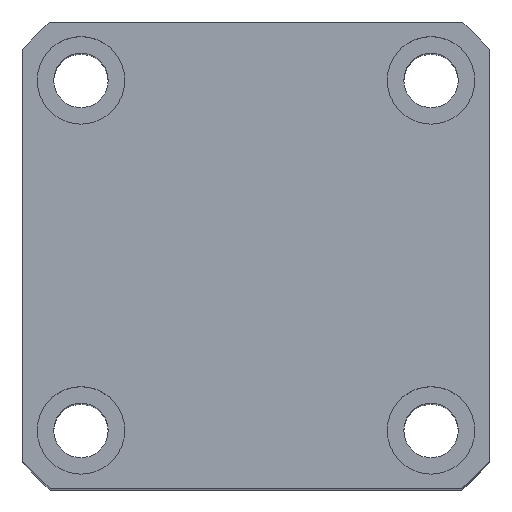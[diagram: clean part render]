
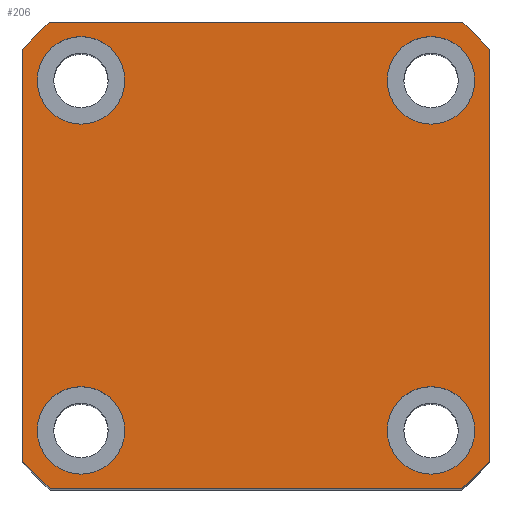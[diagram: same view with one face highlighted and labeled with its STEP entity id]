
A CAD part, top view. The second image highlights one B-rep face of the part: STEP entity #206.
In plain terms, the highlighted planar face has unit normal (0, 0, 1) as drawn and (1, 0, 0) by its records, which use the part's own axes.
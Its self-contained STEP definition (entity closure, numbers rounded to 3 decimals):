
#65 = EDGE_CURVE ( 'NONE', #3837, #6721, #4295, .T. ) ;
#89 = ORIENTED_EDGE ( 'NONE', *, *, #7794, .T. ) ;
#206 = ADVANCED_FACE ( 'NONE', ( #781, #7161, #7344, #5537, #3923 ), #4937, .T. ) ;
#223 = VERTEX_POINT ( 'NONE', #752 ) ;
#228 = VERTEX_POINT ( 'NONE', #6549 ) ;
#315 = DIRECTION ( 'NONE',  ( 1., 0., 0. ) ) ;
#440 = AXIS2_PLACEMENT_3D ( 'NONE', #5600, #1898, #6210 ) ;
#446 = EDGE_CURVE ( 'NONE', #3379, #5198, #3336, .T. ) ;
#577 = CARTESIAN_POINT ( 'NONE',  ( 75., -21.166, 24. ) ) ;
#619 = CARTESIAN_POINT ( 'NONE',  ( 75., 18., -22.5 ) ) ;
#655 = CARTESIAN_POINT ( 'NONE',  ( 75., -18., -22.5 ) ) ;
#752 = CARTESIAN_POINT ( 'NONE',  ( 75., 18., 13.5 ) ) ;
#763 = ORIENTED_EDGE ( 'NONE', *, *, #5205, .F. ) ;
#781 = FACE_BOUND ( 'NONE', #2749, .T. ) ;
#782 = LINE ( 'NONE', #6121, #3924 ) ;
#976 = EDGE_CURVE ( 'NONE', #223, #6044, #5725, .T. ) ;
#1087 = DIRECTION ( 'NONE',  ( 1., 0., 0. ) ) ;
#1119 = DIRECTION ( 'NONE',  ( 1., 0., 0. ) ) ;
#1121 = AXIS2_PLACEMENT_3D ( 'NONE', #4850, #1119, #5466 ) ;
#1130 = DIRECTION ( 'NONE',  ( 1., 0., 0. ) ) ;
#1134 = ORIENTED_EDGE ( 'NONE', *, *, #446, .F. ) ;
#1162 = VECTOR ( 'NONE', #1534, 1000. ) ;
#1181 = VERTEX_POINT ( 'NONE', #1434 ) ;
#1232 = DIRECTION ( 'NONE',  ( 0., 0., -1. ) ) ;
#1234 = DIRECTION ( 'NONE',  ( 0., 0., -1. ) ) ;
#1334 = CARTESIAN_POINT ( 'NONE',  ( 75., -24., 24. ) ) ;
#1355 = ORIENTED_EDGE ( 'NONE', *, *, #1619, .T. ) ;
#1434 = CARTESIAN_POINT ( 'NONE',  ( 75., -21.166, -24. ) ) ;
#1534 = DIRECTION ( 'NONE',  ( 0., 0., -1. ) ) ;
#1572 = AXIS2_PLACEMENT_3D ( 'NONE', #3184, #5476, #2469 ) ;
#1584 = EDGE_LOOP ( 'NONE', ( #2938, #1809 ) ) ;
#1619 = EDGE_CURVE ( 'NONE', #2673, #6232, #6697, .T. ) ;
#1642 = CIRCLE ( 'NONE', #4729, 4.5 ) ;
#1729 = VECTOR ( 'NONE', #6292, 1000. ) ;
#1752 = AXIS2_PLACEMENT_3D ( 'NONE', #6094, #2410, #6713 ) ;
#1809 = ORIENTED_EDGE ( 'NONE', *, *, #1867, .F. ) ;
#1866 = CIRCLE ( 'NONE', #5488, 32. ) ;
#1867 = EDGE_CURVE ( 'NONE', #6044, #223, #4494, .T. ) ;
#1872 = CARTESIAN_POINT ( 'NONE',  ( 75., 18., 22.5 ) ) ;
#1898 = DIRECTION ( 'NONE',  ( 1., 0., 0. ) ) ;
#1942 = CARTESIAN_POINT ( 'NONE',  ( 75., -24., 21.166 ) ) ;
#1969 = DIRECTION ( 'NONE',  ( 1., 0., 0. ) ) ;
#2018 = LINE ( 'NONE', #7152, #5113 ) ;
#2020 = ORIENTED_EDGE ( 'NONE', *, *, #2753, .F. ) ;
#2030 = DIRECTION ( 'NONE',  ( 0., 0., -1. ) ) ;
#2070 = EDGE_LOOP ( 'NONE', ( #2322, #1134 ) ) ;
#2132 = EDGE_CURVE ( 'NONE', #6442, #2303, #3539, .T. ) ;
#2183 = DIRECTION ( 'NONE',  ( 1., 0., 0. ) ) ;
#2303 = VERTEX_POINT ( 'NONE', #3850 ) ;
#2322 = ORIENTED_EDGE ( 'NONE', *, *, #4130, .F. ) ;
#2410 = DIRECTION ( 'NONE',  ( 1., 0., 0. ) ) ;
#2469 = DIRECTION ( 'NONE',  ( 0., 0., -1. ) ) ;
#2475 = AXIS2_PLACEMENT_3D ( 'NONE', #4862, #1130, #5478 ) ;
#2564 = CARTESIAN_POINT ( 'NONE',  ( 75., 24., 24. ) ) ;
#2608 = ORIENTED_EDGE ( 'NONE', *, *, #65, .T. ) ;
#2634 = CIRCLE ( 'NONE', #1752, 32. ) ;
#2673 = VERTEX_POINT ( 'NONE', #3478 ) ;
#2749 = EDGE_LOOP ( 'NONE', ( #763, #6296 ) ) ;
#2753 = EDGE_CURVE ( 'NONE', #7275, #4209, #7914, .T. ) ;
#2780 = AXIS2_PLACEMENT_3D ( 'NONE', #3262, #3891, #2030 ) ;
#2784 = CARTESIAN_POINT ( 'NONE',  ( 75., 21.166, -24. ) ) ;
#2789 = CARTESIAN_POINT ( 'NONE',  ( 75., -18., 18. ) ) ;
#2827 = CARTESIAN_POINT ( 'NONE',  ( 75., 18., 18. ) ) ;
#2851 = EDGE_CURVE ( 'NONE', #7170, #3837, #2634, .T. ) ;
#2882 = EDGE_CURVE ( 'NONE', #2303, #2673, #782, .T. ) ;
#2888 = ORIENTED_EDGE ( 'NONE', *, *, #2882, .T. ) ;
#2938 = ORIENTED_EDGE ( 'NONE', *, *, #976, .F. ) ;
#3071 = EDGE_CURVE ( 'NONE', #6721, #1181, #1866, .T. ) ;
#3184 = CARTESIAN_POINT ( 'NONE',  ( 75., 0., 0. ) ) ;
#3262 = CARTESIAN_POINT ( 'NONE',  ( 75., 0., 0. ) ) ;
#3336 = CIRCLE ( 'NONE', #4902, 4.5 ) ;
#3379 = VERTEX_POINT ( 'NONE', #4558 ) ;
#3414 = DIRECTION ( 'NONE',  ( 1., 0., 0. ) ) ;
#3424 = DIRECTION ( 'NONE',  ( 0., 0., -1. ) ) ;
#3431 = EDGE_LOOP ( 'NONE', ( #5737, #6019, #2888, #1355, #89, #6381, #2608, #4256 ) ) ;
#3478 = CARTESIAN_POINT ( 'NONE',  ( 75., 24., 21.166 ) ) ;
#3539 = CIRCLE ( 'NONE', #2475, 32. ) ;
#3837 = VERTEX_POINT ( 'NONE', #1942 ) ;
#3850 = CARTESIAN_POINT ( 'NONE',  ( 75., 24., -21.166 ) ) ;
#3891 = DIRECTION ( 'NONE',  ( 1., 0., 0. ) ) ;
#3923 = FACE_OUTER_BOUND ( 'NONE', #3431, .T. ) ;
#3924 = VECTOR ( 'NONE', #4277, 1000. ) ;
#4054 = CARTESIAN_POINT ( 'NONE',  ( 75., 0., 0. ) ) ;
#4130 = EDGE_CURVE ( 'NONE', #5198, #3379, #5436, .T. ) ;
#4202 = VERTEX_POINT ( 'NONE', #655 ) ;
#4209 = VERTEX_POINT ( 'NONE', #5628 ) ;
#4256 = ORIENTED_EDGE ( 'NONE', *, *, #3071, .T. ) ;
#4277 = DIRECTION ( 'NONE',  ( 0., 0., 1. ) ) ;
#4295 = LINE ( 'NONE', #1334, #1162 ) ;
#4494 = CIRCLE ( 'NONE', #5937, 4.5 ) ;
#4545 = DIRECTION ( 'NONE',  ( 1., 0., 0. ) ) ;
#4558 = CARTESIAN_POINT ( 'NONE',  ( 75., 18., -13.5 ) ) ;
#4670 = DIRECTION ( 'NONE',  ( 0., 0., -1. ) ) ;
#4729 = AXIS2_PLACEMENT_3D ( 'NONE', #7081, #3414, #7684 ) ;
#4750 = EDGE_CURVE ( 'NONE', #228, #4202, #5343, .T. ) ;
#4822 = CARTESIAN_POINT ( 'NONE',  ( 75., -18., 18. ) ) ;
#4850 = CARTESIAN_POINT ( 'NONE',  ( 75., -18., -18. ) ) ;
#4862 = CARTESIAN_POINT ( 'NONE',  ( 75., 0., 0. ) ) ;
#4902 = AXIS2_PLACEMENT_3D ( 'NONE', #6469, #4545, #1234 ) ;
#4937 = PLANE ( 'NONE',  #1572 ) ;
#4944 = CARTESIAN_POINT ( 'NONE',  ( 75., -24., -21.166 ) ) ;
#5113 = VECTOR ( 'NONE', #7760, 1000. ) ;
#5198 = VERTEX_POINT ( 'NONE', #619 ) ;
#5205 = EDGE_CURVE ( 'NONE', #4202, #228, #1642, .T. ) ;
#5343 = CIRCLE ( 'NONE', #1121, 4.5 ) ;
#5434 = DIRECTION ( 'NONE',  ( 0., 0., -1. ) ) ;
#5436 = CIRCLE ( 'NONE', #440, 4.5 ) ;
#5466 = DIRECTION ( 'NONE',  ( 0., 0., -1. ) ) ;
#5476 = DIRECTION ( 'NONE',  ( 1., 0., 0. ) ) ;
#5478 = DIRECTION ( 'NONE',  ( 0., 0., -1. ) ) ;
#5488 = AXIS2_PLACEMENT_3D ( 'NONE', #4054, #315, #4670 ) ;
#5537 = FACE_BOUND ( 'NONE', #1584, .T. ) ;
#5600 = CARTESIAN_POINT ( 'NONE',  ( 75., 18., -18. ) ) ;
#5628 = CARTESIAN_POINT ( 'NONE',  ( 75., -18., 13.5 ) ) ;
#5669 = CARTESIAN_POINT ( 'NONE',  ( 75., 18., 18. ) ) ;
#5725 = CIRCLE ( 'NONE', #7609, 4.5 ) ;
#5737 = ORIENTED_EDGE ( 'NONE', *, *, #6977, .T. ) ;
#5904 = AXIS2_PLACEMENT_3D ( 'NONE', #2789, #7090, #3424 ) ;
#5937 = AXIS2_PLACEMENT_3D ( 'NONE', #5669, #1969, #6277 ) ;
#6019 = ORIENTED_EDGE ( 'NONE', *, *, #2132, .T. ) ;
#6031 = EDGE_LOOP ( 'NONE', ( #7814, #2020 ) ) ;
#6044 = VERTEX_POINT ( 'NONE', #1872 ) ;
#6094 = CARTESIAN_POINT ( 'NONE',  ( 75., 0., 0. ) ) ;
#6121 = CARTESIAN_POINT ( 'NONE',  ( 75., 24., 24. ) ) ;
#6210 = DIRECTION ( 'NONE',  ( 0., 0., -1. ) ) ;
#6232 = VERTEX_POINT ( 'NONE', #7643 ) ;
#6277 = DIRECTION ( 'NONE',  ( 0., 0., -1. ) ) ;
#6278 = EDGE_CURVE ( 'NONE', #4209, #7275, #6831, .T. ) ;
#6292 = DIRECTION ( 'NONE',  ( 0., -1., 0. ) ) ;
#6296 = ORIENTED_EDGE ( 'NONE', *, *, #4750, .F. ) ;
#6381 = ORIENTED_EDGE ( 'NONE', *, *, #2851, .T. ) ;
#6442 = VERTEX_POINT ( 'NONE', #2784 ) ;
#6469 = CARTESIAN_POINT ( 'NONE',  ( 75., 18., -18. ) ) ;
#6549 = CARTESIAN_POINT ( 'NONE',  ( 75., -18., -13.5 ) ) ;
#6645 = LINE ( 'NONE', #2564, #1729 ) ;
#6697 = CIRCLE ( 'NONE', #2780, 32. ) ;
#6713 = DIRECTION ( 'NONE',  ( 0., 0., -1. ) ) ;
#6721 = VERTEX_POINT ( 'NONE', #4944 ) ;
#6831 = CIRCLE ( 'NONE', #5904, 4.5 ) ;
#6858 = AXIS2_PLACEMENT_3D ( 'NONE', #4822, #1087, #5434 ) ;
#6977 = EDGE_CURVE ( 'NONE', #1181, #6442, #2018, .T. ) ;
#7081 = CARTESIAN_POINT ( 'NONE',  ( 75., -18., -18. ) ) ;
#7090 = DIRECTION ( 'NONE',  ( 1., 0., 0. ) ) ;
#7152 = CARTESIAN_POINT ( 'NONE',  ( 75., 24., -24. ) ) ;
#7161 = FACE_BOUND ( 'NONE', #6031, .T. ) ;
#7170 = VERTEX_POINT ( 'NONE', #577 ) ;
#7275 = VERTEX_POINT ( 'NONE', #7570 ) ;
#7344 = FACE_BOUND ( 'NONE', #2070, .T. ) ;
#7570 = CARTESIAN_POINT ( 'NONE',  ( 75., -18., 22.5 ) ) ;
#7609 = AXIS2_PLACEMENT_3D ( 'NONE', #2827, #2183, #1232 ) ;
#7643 = CARTESIAN_POINT ( 'NONE',  ( 75., 21.166, 24. ) ) ;
#7684 = DIRECTION ( 'NONE',  ( 0., 0., -1. ) ) ;
#7760 = DIRECTION ( 'NONE',  ( 0., 1., 0. ) ) ;
#7794 = EDGE_CURVE ( 'NONE', #6232, #7170, #6645, .T. ) ;
#7814 = ORIENTED_EDGE ( 'NONE', *, *, #6278, .F. ) ;
#7914 = CIRCLE ( 'NONE', #6858, 4.5 ) ;
